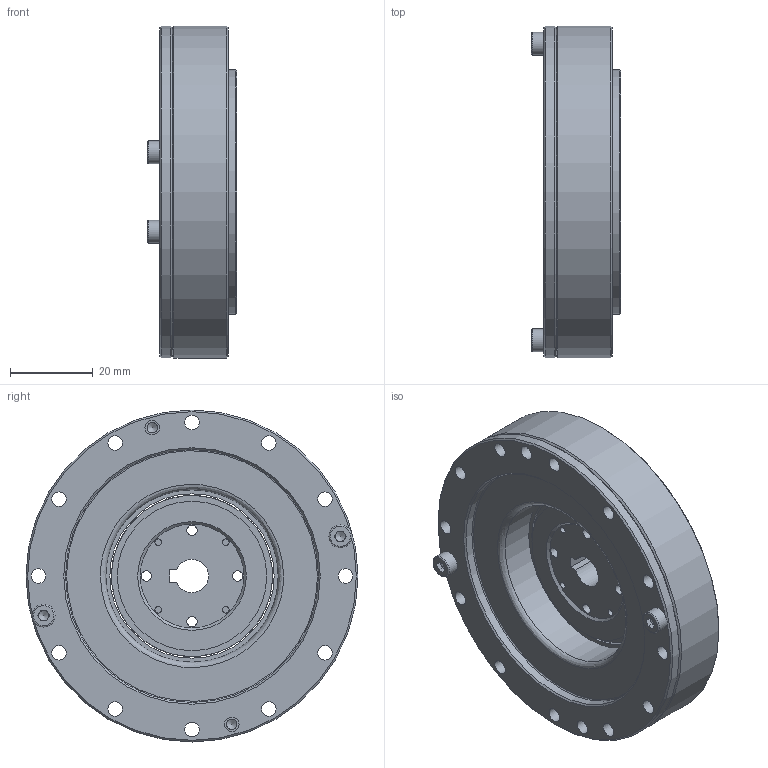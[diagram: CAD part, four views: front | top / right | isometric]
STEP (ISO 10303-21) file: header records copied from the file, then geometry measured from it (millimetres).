
FILE_DESCRIPTION (( 'STEP AP203' ), '1' );
FILE_NAME ('LHD-17-XXX-C-I.STEP', '2025-01-08T10:29:09', ( '' ), ( '' ), 'SwSTEP 2.0', 'SolidWorks 2023', '' );
FILE_SCHEMA (( 'CONFIG_CONTROL_DESIGN' ));
Length unit declared in the file: metre
Products named in the file (1): LHD-17-XXX-C-I
Bounding box: 21.5 x 80 x 80 mm (x, y, z)
Volume: 55151.6 mm3; surface area: 53562.3 mm2
Topology: 22 solids, 22 shells, 671 faces, 1554 edges, 989 vertices
Faces by surface type: plane 309, cylinder 208, cone 99, bspline 55
Full cylindrical faces by diameter (mm): 1.6 x10, 2 x10, 2.4 x10, 2.5 x20, 3 x2, 3.4 x4, 3.5 x40, 3.8 x10, 4.5 x6, 5.5 x2, 16 x2, 27 x2, 29.2 x1, 30.295 x1, 30.3 x1, 32 x2, 32.53 x2, 33.23 x1, 36 x1, 38.79 x1, 39.6 x1, 41.522 x1, 41.72 x1, 42.466 x1, 43.6 x1, 43.67 x1, 44.6 x1, 45 x3, 47 x1, 47.6 x1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
Entity records: 21426 total; most frequent: CARTESIAN_POINT 7165, DIRECTION 3008, ORIENTED_EDGE 2464, AXIS2_PLACEMENT_3D 1285, EDGE_CURVE 1232, EDGE_LOOP 1146, VERTEX_POINT 936, FACE_OUTER_BOUND 841
